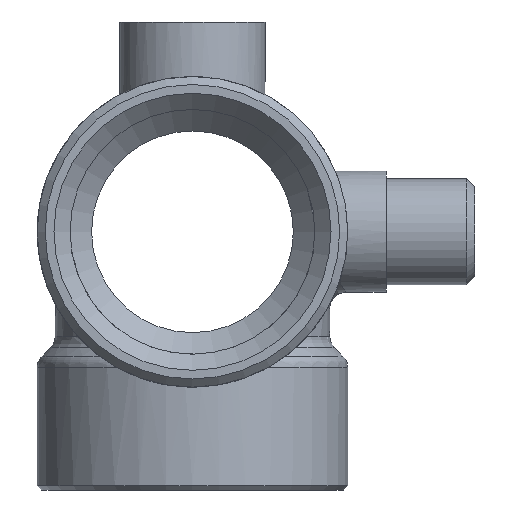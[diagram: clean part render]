
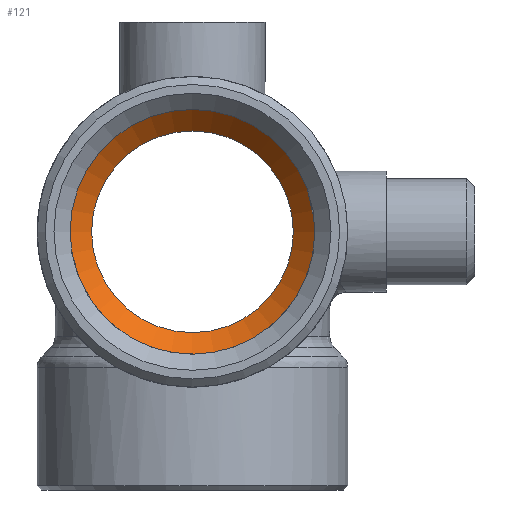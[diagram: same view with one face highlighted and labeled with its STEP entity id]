
A CAD part, front view. The second image highlights one B-rep face of the part: STEP entity #121.
In plain terms, the highlighted conical face has half-angle 45 degrees and reference radius 13.835 mm.
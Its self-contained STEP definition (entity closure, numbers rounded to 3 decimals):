
#121=ADVANCED_FACE('',(#3095,#3097),#3099,.F.);
#3095=FACE_OUTER_BOUND('',#3096,.T.);
#3096=EDGE_LOOP('',(#3506));
#3097=FACE_OUTER_BOUND('',#3098,.T.);
#3098=EDGE_LOOP('',(#3507));
#3099=CONICAL_SURFACE('',#3100,13.835,0.785);
#3100=AXIS2_PLACEMENT_3D('',#3101,#3102,#3103);
#3101=CARTESIAN_POINT('',(0.,26.535,0.));
#3102=DIRECTION('',(0.,-1.,0.));
#3103=DIRECTION('',(1.,0.,0.));
#3506=ORIENTED_EDGE('',*,*,#3696,.T.);
#3507=ORIENTED_EDGE('',*,*,#3689,.F.);
#3689=EDGE_CURVE('',#3979,#3979,#3980,.T.);
#3696=EDGE_CURVE('',#3993,#3993,#3994,.T.);
#3979=VERTEX_POINT('',#5730);
#3980=CIRCLE('',#5731,12.5);
#3993=VERTEX_POINT('',#5874);
#3994=CIRCLE('',#5875,15.17);
#5730=CARTESIAN_POINT('',(12.5,27.87,0.));
#5731=AXIS2_PLACEMENT_3D('',#5732,#5733,#5734);
#5732=CARTESIAN_POINT('',(0.,27.87,0.));
#5733=DIRECTION('',(0.,-1.,0.));
#5734=DIRECTION('',(1.,0.,0.));
#5874=CARTESIAN_POINT('',(15.17,25.2,0.));
#5875=AXIS2_PLACEMENT_3D('',#5876,#5877,#5878);
#5876=CARTESIAN_POINT('',(0.,25.2,0.));
#5877=DIRECTION('',(0.,-1.,0.));
#5878=DIRECTION('',(1.,0.,0.));
